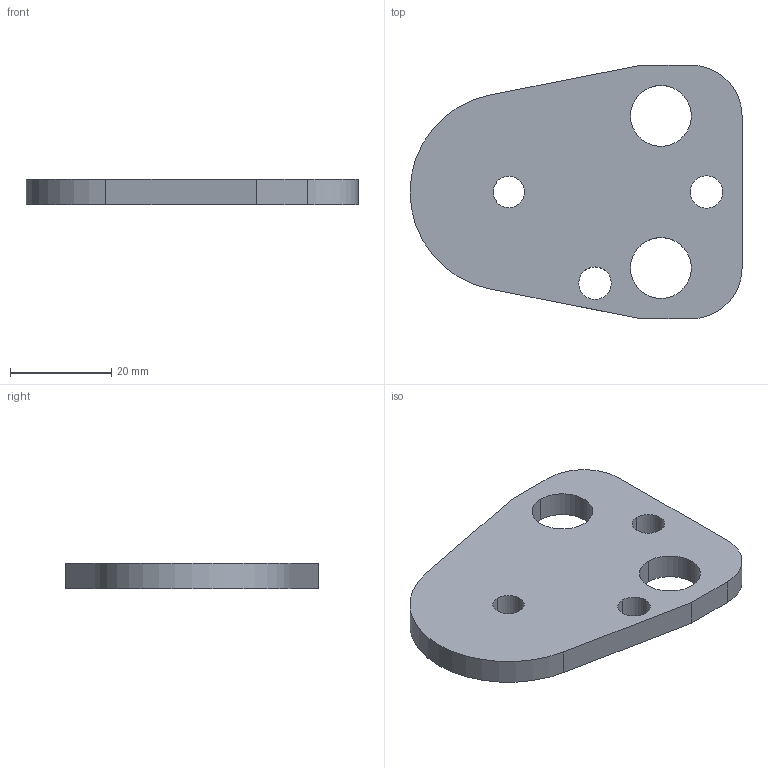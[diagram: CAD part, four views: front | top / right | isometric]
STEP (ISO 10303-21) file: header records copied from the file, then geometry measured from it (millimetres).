
FILE_DESCRIPTION(/* description */ (''),/* implementation_level */ '2;1');
FILE_NAME(/* name */ '3d_bpc25_03418_r00.stp',/* time_stamp */ '2011-01-10T14:17:09+09:00',/* author */ ('MISUMI'),/* organization */ (''),/* preprocessor_version */ 'ST-DEVELOPER v11',/* originating_system */ 'UGS - NX 5.0',/* authorisation */ '');
FILE_SCHEMA (('CONFIG_CONTROL_DESIGN'));
Length unit declared in the file: millimetre
Products named in the file (1): 3d_bpc25_03418_r00
Bounding box: 65.5 x 50 x 5 mm (x, y, z)
Volume: 12006.8 mm3; surface area: 6457 mm2
Topology: 1 solids, 1 shells, 20 faces, 54 edges, 36 vertices
Faces by surface type: cylinder 13, plane 7
Entity records: 750 total; most frequent: DIRECTION 122, CARTESIAN_POINT 111, ORIENTED_EDGE 108, EDGE_CURVE 54, AXIS2_PLACEMENT_3D 47, VERTEX_POINT 36, EDGE_LOOP 30, LINE 28
